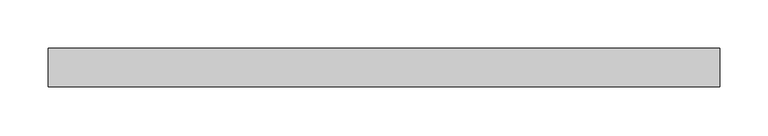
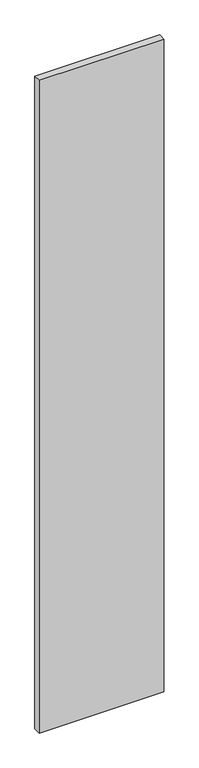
"""IFC4 building model written with IfcOpenShell, lengths in millimetres: plate geometry, Vitré."""

from ifc_helpers import new_model, si_unit, origin, origin_with_axes, place, context, project, spatial, polyline, outline, extrude, source, transform, mapped, element, save


def plate_477fc187(model_context):
    return source(origin(), model_context, "Body", "SweptSolid", [
        extrude(outline(polyline([(-348.5000003, -20.0), (-348.5000003, 20.0), (348.5000003, 20.0), (348.5000003, -20.0), (-348.5000003, -20.0)])), origin_with_axes(), (0.0, 0.0, 1.0), 3860.0),
    ])


if __name__ == "__main__":
    model = new_model("IFC4")
    model_context = context("Model", 3, world=origin())
    ifc_project = project(units=[si_unit("LENGTHUNIT", "METRE", prefix="MILLI")], contexts=[model_context])
    site = spatial("IfcSite", under=ifc_project)
    building = spatial("IfcBuilding", under=site)
    placement = place(None, origin())
    plate_shape = plate_477fc187(model_context)
    element("IfcPlate", 1, ObjectType="Vitré", at=placement, inside=building, context=model_context, shape_type="MappedRepresentation", body=[
        mapped(plate_shape, transform((0.0, 0.0, 0.0), x_axis=(1.0, 0.0, 0.0), y_axis=(0.0, 1.0, 0.0), z_axis=(0.0, 0.0, 1.0))),
    ])
    save(model, "model.ifc")
